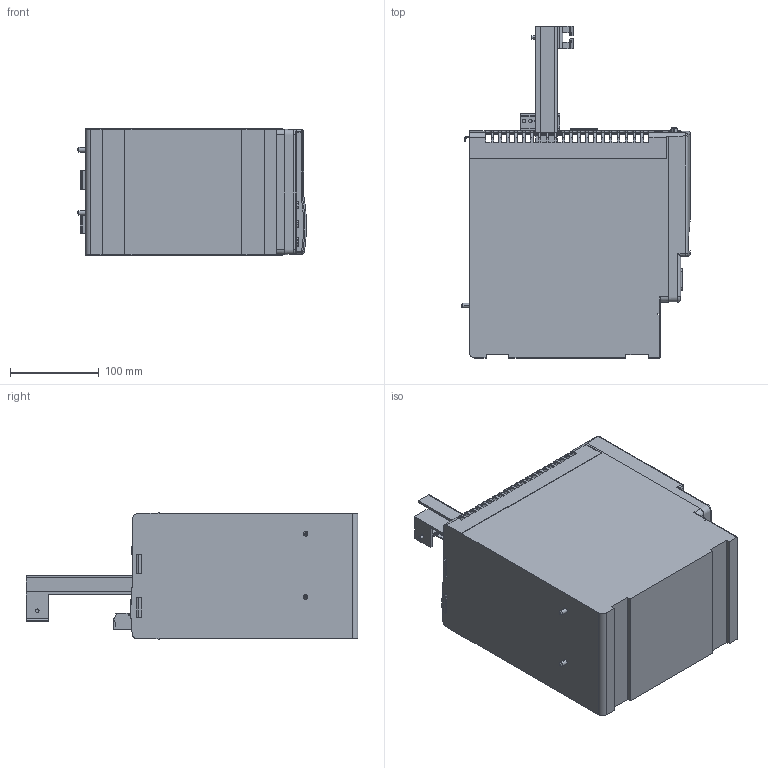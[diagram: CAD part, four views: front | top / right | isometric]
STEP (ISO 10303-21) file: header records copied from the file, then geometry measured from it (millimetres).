
FILE_DESCRIPTION (( 'STEP AP214' ), '1' );
FILE_NAME ('Rockwell Automation-2094-XX-2094-BM03-S.STEP', '2011-05-31T20:47:02', ( 'sysAdmin' ), ( 'SolidWorks' ), 'SwSTEP 2.0', 'SolidWorks 2011', '' );
FILE_SCHEMA (( 'AUTOMOTIVE_DESIGN' ));
Length unit declared in the file: millimetre
Products named in the file (1): Rockwell Automation-2094-XX-2094-BM03-S
Bounding box: 257.96 x 374 x 142.04 mm (x, y, z)
Volume: 587185.8 mm3; surface area: 550522.3 mm2
Topology: 2 solids, 2 shells, 2120 faces, 6000 edges, 3974 vertices
Faces by surface type: plane 1158, cylinder 671, bspline 238, torus 31, cone 20, sphere 2
Entity records: 91086 total; most frequent: CARTESIAN_POINT 31443, ORIENTED_EDGE 12000, DIRECTION 10238, EDGE_CURVE 6000, VERTEX_POINT 3974, VECTOR 3724, LINE 3724, AXIS2_PLACEMENT_3D 3257
